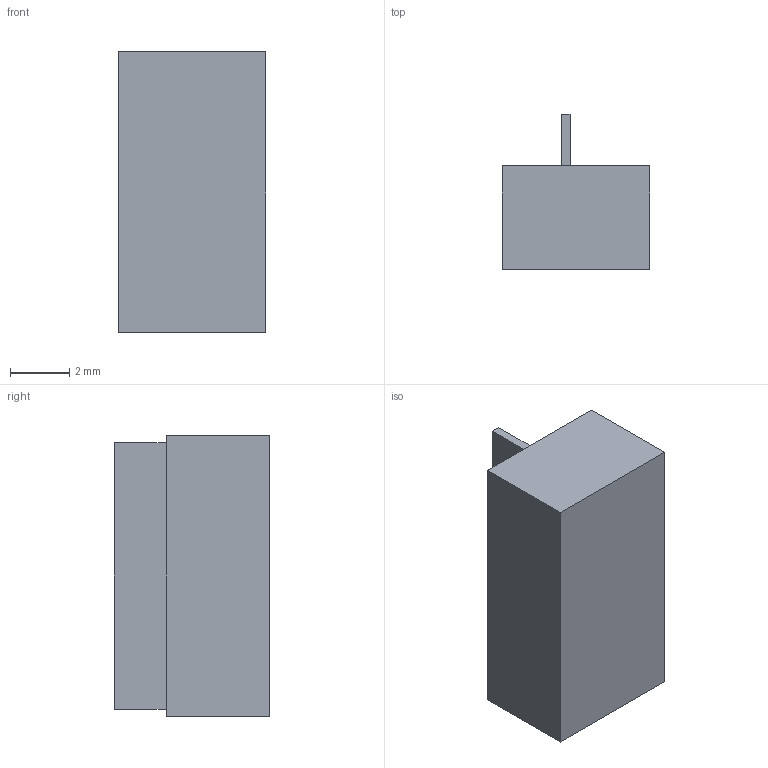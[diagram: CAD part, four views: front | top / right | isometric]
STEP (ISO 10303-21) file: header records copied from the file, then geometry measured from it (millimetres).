
FILE_DESCRIPTION(('Open CASCADE Model'),'2;1');
FILE_NAME('Open CASCADE Shape Model','2026-11-23T18:10:06',('Author'),( 'Open CASCADE'),'Open CASCADE STEP processor 8.0','build123d', 'Unknown');
FILE_SCHEMA(('AUTOMOTIVE_DESIGN { 1 0 10303 214 1 1 1 1 }'));
Length unit declared in the file: millimetre
Products named in the file (1): SOLID
Bounding box: 5 x 5.25 x 9.5 mm (x, y, z)
Volume: 171 mm3; surface area: 229.1 mm2
Topology: 1 solids, 1 shells, 11 faces, 24 edges, 16 vertices
Faces by surface type: plane 11
Entity records: 612 total; most frequent: CARTESIAN_POINT 108, DIRECTION 88, LINE 64, VECTOR 64, ORIENTED_EDGE 48, PCURVE 48, DEFINITIONAL_REPRESENTATION 48, EDGE_CURVE 24
